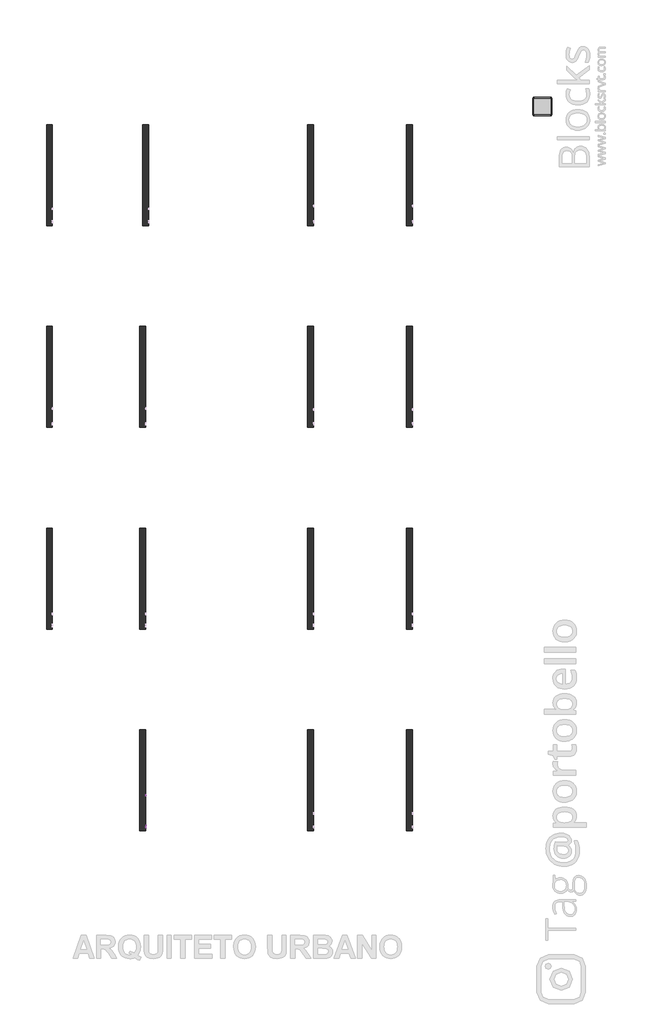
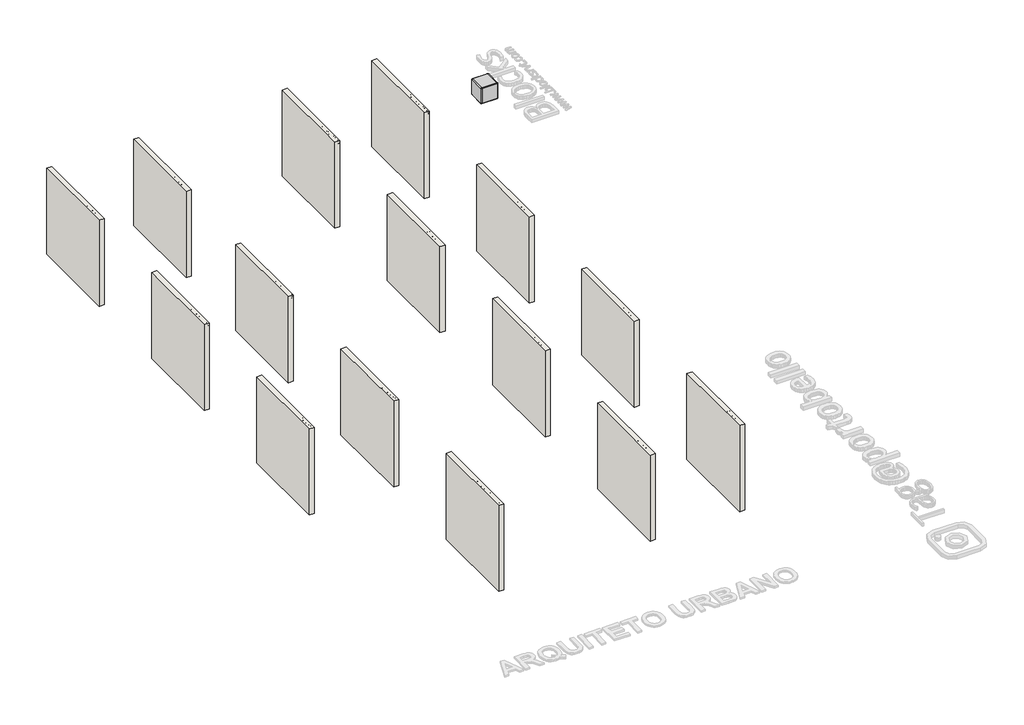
# One storey, part 1 of 8: 15 walls, 2 proxies, 1 furniture element.
"""IFC4 building model written with IfcOpenShell, lengths in millimetres."""

from ifc_helpers import new_model, si_unit, frame, origin, origin_with_axes, place, context, project, spatial, polyline, outline, extrude, transform, mapped, element, save
from components import branco_22256ad2

model = new_model("IFC4")

# Units and contexts
model_context = context("Model", 3, world=origin())
ifc_project = project(units=[si_unit("LENGTHUNIT", "METRE", prefix="MILLI")], contexts=[model_context])

# Site, building, storey
site = spatial("IfcSite", under=ifc_project)
building = spatial("IfcBuilding", under=site)
storey = spatial("IfcBuildingStorey", under=building, Name="PORTOBELLO - SHOWROOM", Elevation=0.0)

# Proxies
placement = place(None, origin())
element("IfcBuildingElementProxy", 1, Name="10mm Arial", ObjectType="10mm Arial", at=placement, inside=storey, context=model_context, shape_type="SweptSolid", body=[
    extrude(outline(polyline([(-9164.9115358, 2548.8308244), (-9164.9115358, 2649.2871345), (-9143.3046, 2649.2871345), (-9122.7522592, 2578.4821132), (-9118.6074554, 2563.693257), (-9114.119295, 2579.7083865), (-9093.9103107, 2649.2871345), (-9072.3033749, 2649.2871345), (-9072.3033749, 2548.8308244), (-9084.8604137, 2548.8308244), (-9084.8604137, 2636.7300958), (-9110.0971185, 2548.8308244), (-9127.1177922, 2548.8308244), (-9152.354497, 2636.7300958), (-9152.354497, 2548.8308244), (-9164.9115358, 2548.8308244)])), frame((-16732.9960483, 0.0, 0.0), z_axis=(1.0, 0.0, 0.0), x_axis=(0.0, 1.0, 0.0)), (0.0, 0.0, 1.0), 20.0),
    extrude(outline(polyline([(-9000.2475548, 2570.8056422), (-8987.9357707, 2569.2360124), (-8992.3718144, 2559.9592547), (-8999.4504771, 2553.0246791), (-9009.0123433, 2548.7020657), (-9020.8979974, 2547.2611945), (-9035.6316713, 2549.7474637), (-9046.9685682, 2557.2062711), (-9054.1974494, 2569.1532389), (-9056.6070764, 2585.1039891), (-9054.1729239, 2601.5912339), (-9046.8704663, 2613.9214121), (-9035.6868536, 2621.6101458), (-9021.609236, 2624.173057), (-9007.970011, 2621.6162771), (-8997.0715069, 2613.9459375), (-8989.9253991, 2601.6402848), (-8987.5433632, 2585.1775655), (-8987.6169396, 2581.7930512), (-9044.0500377, 2581.7930512), (-9041.8764682, 2572.3936662), (-9036.8272878, 2565.483616), (-9029.5401586, 2561.234579), (-9020.6527428, 2559.8182333), (-9008.3409587, 2562.4424582), (-9000.2475548, 2570.8056422)]), holes=[polyline([(-9044.0500377, 2594.3500899), (-9000.100402, 2594.3500899), (-9005.1281226, 2605.7299063), (-9012.4489743, 2610.1444902), (-9021.6582869, 2611.6160182), (-9037.1215934, 2606.9193914), (-9041.9868328, 2601.4287526), (-9044.0500377, 2594.3500899)])]), frame((-16732.9960483, 0.0, 0.0), z_axis=(1.0, 0.0, 0.0), x_axis=(0.0, 1.0, 0.0)), (0.0, 0.0, 1.0), 20.0),
    extrude(outline(polyline([(-8929.4670589, 2548.8308244), (-8929.4670589, 2560.6766246), (-8937.7750606, 2550.6150521), (-8949.2591102, 2547.2611945), (-8964.8082559, 2552.1172369), (-8975.7956648, 2565.667557), (-8979.695214, 2585.6435494), (-8976.1022332, 2605.6318044), (-8965.3355534, 2619.3905911), (-8949.3081612, 2624.173057), (-8937.7321411, 2620.7517544), (-8929.4670589, 2611.8612729), (-8929.4670589, 2649.2871345), (-8916.9100201, 2649.2871345), (-8916.9100201, 2548.8308244), (-8929.4670589, 2548.8308244)]), holes=[polyline([(-8967.1381752, 2585.6926003), (-8965.7218295, 2574.3342437), (-8961.4727925, 2566.2561682), (-8955.2985063, 2561.427717), (-8948.1064133, 2559.8182333), (-8940.917386, 2561.3541406), (-8934.8994497, 2565.9618626), (-8930.8251566, 2573.7272384), (-8929.4670589, 2584.7361071), (-8930.8496821, 2596.7719797), (-8934.9975516, 2605.1167696), (-8941.168772, 2609.9912061), (-8948.6214481, 2611.6160182), (-8955.8871175, 2610.0555854), (-8961.8406745, 2605.374287), (-8965.8138, 2597.3329998), (-8967.1381752, 2585.6926003)])]), frame((-16732.9960483, 0.0, 0.0), z_axis=(1.0, 0.0, 0.0), x_axis=(0.0, 1.0, 0.0)), (0.0, 0.0, 1.0), 20.0),
    extrude(outline(polyline([(-16712.9960483, -8885.5174232), (-16712.9960483, -8898.074462), (-16732.9960483, -8898.074462), (-16732.9960483, -8885.5174232), (-16712.9960483, -8885.5174232)])), frame((0.0, 0.0, 2636.7300958), z_axis=(0.0, 0.0, 1.0), x_axis=(1.0, 0.0, 0.0)), (0.0, 0.0, 1.0), 12.5570388),
    extrude(outline(polyline([(-16712.9960483, -8885.5174232), (-16712.9960483, -8898.074462), (-16732.9960483, -8898.074462), (-16732.9960483, -8885.5174232), (-16712.9960483, -8885.5174232)])), frame((0.0, 0.0, 2548.8308244), z_axis=(0.0, 0.0, 1.0), x_axis=(1.0, 0.0, 0.0)), (0.0, 0.0, 1.0), 73.7726028),
    extrude(outline(polyline([(-8839.9981577, 2559.3031985), (-8838.4285278, 2548.4629424), (-8847.8217814, 2547.2611945), (-8858.3432065, 2549.3458592), (-8863.5916563, 2554.8150382), (-8865.1122352, 2569.0643341), (-8865.1122352, 2610.0463884), (-8874.5300143, 2610.0463884), (-8874.5300143, 2622.6034272), (-8865.1122352, 2622.6034272), (-8865.1122352, 2640.531543), (-8852.5551964, 2647.9137084), (-8852.5551964, 2622.6034272), (-8839.9981577, 2622.6034272), (-8839.9981577, 2610.0463884), (-8852.5551964, 2610.0463884), (-8852.5551964, 2569.4322161), (-8851.8930088, 2562.957493), (-8849.7470305, 2560.6643619), (-8845.4673367, 2559.8182333), (-8839.9981577, 2559.3031985)])), frame((-16732.9960483, 0.0, 0.0), z_axis=(1.0, 0.0, 0.0), x_axis=(0.0, 1.0, 0.0)), (0.0, 0.0, 1.0), 20.0),
    extrude(outline(polyline([(-8775.7904868, 2570.8056422), (-8763.4787027, 2569.2360124), (-8767.9147464, 2559.9592547), (-8774.9934091, 2553.0246791), (-8784.5552753, 2548.7020657), (-8796.4409294, 2547.2611945), (-8811.1746033, 2549.7474637), (-8822.5115002, 2557.2062711), (-8829.7403814, 2569.1532389), (-8832.1500084, 2585.1039891), (-8829.7158559, 2601.5912339), (-8822.4133983, 2613.9214121), (-8811.2297856, 2621.6101458), (-8797.152168, 2624.173057), (-8783.512943, 2621.6162771), (-8772.6144389, 2613.9459375), (-8765.4683311, 2601.6402848), (-8763.0862952, 2585.1775655), (-8763.1598716, 2581.7930512), (-8819.5929697, 2581.7930512), (-8817.4194002, 2572.3936662), (-8812.3702198, 2565.483616), (-8805.0830906, 2561.234579), (-8796.1956748, 2559.8182333), (-8783.8838907, 2562.4424582), (-8775.7904868, 2570.8056422)]), holes=[polyline([(-8819.5929697, 2594.3500899), (-8775.643334, 2594.3500899), (-8780.6710546, 2605.7299063), (-8787.9919063, 2610.1444902), (-8797.2012189, 2611.6160182), (-8812.6645254, 2606.9193914), (-8817.5297648, 2601.4287526), (-8819.5929697, 2594.3500899)])]), frame((-16732.9960483, 0.0, 0.0), z_axis=(1.0, 0.0, 0.0), x_axis=(0.0, 1.0, 0.0)), (0.0, 0.0, 1.0), 20.0),
    extrude(outline(polyline([(-8750.5292564, 2548.8308244), (-8750.5292564, 2622.6034272), (-8739.5418475, 2622.6034272), (-8739.5418475, 2611.6895946), (-8731.7427492, 2621.7450358), (-8723.8946, 2624.173057), (-8711.2885103, 2620.2980333), (-8715.482365, 2609.0408443), (-8724.3115329, 2611.6160182), (-8731.4116554, 2609.1389461), (-8735.936604, 2602.2718156), (-8737.9722177, 2587.6055867), (-8737.9722177, 2548.8308244), (-8750.5292564, 2548.8308244)])), frame((-16732.9960483, 0.0, 0.0), z_axis=(1.0, 0.0, 0.0), x_axis=(0.0, 1.0, 0.0)), (0.0, 0.0, 1.0), 20.0),
    extrude(outline(polyline([(-8703.4403611, 2548.8308244), (-8703.4403611, 2622.6034272), (-8692.4529521, 2622.6034272), (-8692.4529521, 2611.6895946), (-8684.6538538, 2621.7450358), (-8676.8057046, 2624.173057), (-8664.1996149, 2620.2980333), (-8668.3934697, 2609.0408443), (-8677.2226375, 2611.6160182), (-8684.32276, 2609.1389461), (-8688.8477086, 2602.2718156), (-8690.8833223, 2587.6055867), (-8690.8833223, 2548.8308244), (-8703.4403611, 2548.8308244)])), frame((-16732.9960483, 0.0, 0.0), z_axis=(1.0, 0.0, 0.0), x_axis=(0.0, 1.0, 0.0)), (0.0, 0.0, 1.0), 20.0),
    extrude(outline(polyline([(-8609.2625703, 2558.2486035), (-8621.4394643, 2549.7382666), (-8634.8916826, 2547.2611945), (-8645.3855165, 2548.7511166), (-8653.1263669, 2553.2208829), (-8657.8996357, 2560.0083057), (-8659.4907254, 2568.4511975), (-8657.0872297, 2578.3840113), (-8650.7719221, 2585.5944984), (-8641.9795424, 2589.7147768), (-8631.1147608, 2591.6032377), (-8609.3361467, 2595.9197198), (-8609.2625703, 2598.7156229), (-8612.720661, 2607.9862492), (-8626.602075, 2611.6160182), (-8639.3062666, 2609.2002598), (-8645.3640568, 2600.6286093), (-8657.9210955, 2602.1982392), (-8652.4887047, 2614.4609723), (-8641.5503467, 2621.646934), (-8624.9833942, 2624.173057), (-8609.7653424, 2621.9412396), (-8601.1691664, 2616.3371705), (-8597.3186682, 2607.8145709), (-8596.7055315, 2596.827162), (-8596.7055315, 2581.20444), (-8596.0678694, 2559.3890376), (-8593.5662718, 2548.8308244), (-8606.1233106, 2548.8308244), (-8609.2625703, 2558.2486035)]), holes=[polyline([(-8609.2625703, 2583.362681), (-8629.5206055, 2579.5121828), (-8640.3240734, 2577.4765691), (-8645.216904, 2574.1656311), (-8646.9336866, 2569.3341142), (-8643.193553, 2562.5405601), (-8632.2184068, 2559.8182333), (-8619.5142152, 2562.8226029), (-8611.3227095, 2570.0944037), (-8609.3361467, 2579.8064884), (-8609.2625703, 2583.362681)])]), frame((-16732.9960483, 0.0, 0.0), z_axis=(1.0, 0.0, 0.0), x_axis=(0.0, 1.0, 0.0)), (0.0, 0.0, 1.0), 20.0),
    extrude(outline(polyline([(-8579.4396032, 2548.8308244), (-8579.4396032, 2622.6034272), (-8566.8825645, 2622.6034272), (-8566.8825645, 2612.3027313), (-8557.2808444, 2621.2054756), (-8544.1719826, 2624.173057), (-8532.3139196, 2621.781824), (-8524.2205157, 2615.5033046), (-8520.4558567, 2606.2694666), (-8519.7936691, 2594.1293607), (-8519.7936691, 2548.8308244), (-8532.3507078, 2548.8308244), (-8532.3507078, 2592.4371035), (-8533.7977104, 2603.5471398), (-8538.9112701, 2609.420989), (-8547.5319715, 2611.6160182), (-8561.1558681, 2606.6863995), (-8565.4508904, 2599.5433574), (-8566.8825645, 2587.9734687), (-8566.8825645, 2548.8308244), (-8579.4396032, 2548.8308244)])), frame((-16732.9960483, 0.0, 0.0), z_axis=(1.0, 0.0, 0.0), x_axis=(0.0, 1.0, 0.0)), (0.0, 0.0, 1.0), 20.0),
    extrude(outline(polyline([(-8450.8771086, 2570.8056422), (-8438.5653245, 2569.2360124), (-8443.0013683, 2559.9592547), (-8450.080031, 2553.0246791), (-8459.6418972, 2548.7020657), (-8471.5275513, 2547.2611945), (-8486.2612252, 2549.7474637), (-8497.598122, 2557.2062711), (-8504.8270032, 2569.1532389), (-8507.2366303, 2585.1039891), (-8504.8024778, 2601.5912339), (-8497.5000202, 2613.9214121), (-8486.3164075, 2621.6101458), (-8472.2387898, 2624.173057), (-8458.5995649, 2621.6162771), (-8447.7010607, 2613.9459375), (-8440.554953, 2601.6402848), (-8438.1729171, 2585.1775655), (-8438.2464935, 2581.7930512), (-8494.6795915, 2581.7930512), (-8492.5060221, 2572.3936662), (-8487.4568417, 2565.483616), (-8480.1697125, 2561.234579), (-8471.2822966, 2559.8182333), (-8458.9705125, 2562.4424582), (-8450.8771086, 2570.8056422)]), holes=[polyline([(-8494.6795915, 2594.3500899), (-8450.7299558, 2594.3500899), (-8455.7576764, 2605.7299063), (-8463.0785281, 2610.1444902), (-8472.2878408, 2611.6160182), (-8487.7511473, 2606.9193914), (-8492.6163867, 2601.4287526), (-8494.6795915, 2594.3500899)])]), frame((-16732.9960483, 0.0, 0.0), z_axis=(1.0, 0.0, 0.0), x_axis=(0.0, 1.0, 0.0)), (0.0, 0.0, 1.0), 20.0),
    extrude(outline(polyline([(-8428.755138, 2585.7171258), (-8426.0389426, 2603.5042202), (-8417.8903564, 2616.0060767), (-8407.8226525, 2622.1313119), (-8395.7683858, 2624.173057), (-8382.5767506, 2621.6867878), (-8372.0399971, 2614.2279804), (-8365.1330126, 2602.3852458), (-8362.8306845, 2586.7471954), (-8366.9019119, 2564.4044955), (-8378.7599749, 2551.7616176), (-8395.7683858, 2547.2611945), (-8409.1194365, 2549.7382666), (-8419.6439272, 2557.1694829), (-8426.4773353, 2569.2605379), (-8428.755138, 2585.7171258)]), holes=[polyline([(-8416.1980992, 2585.7416512), (-8414.7449653, 2574.3771633), (-8410.3855637, 2566.2806937), (-8403.8250015, 2561.4338484), (-8395.7683858, 2559.8182333), (-8387.7485583, 2561.4430455), (-8381.2002588, 2566.3174819), (-8376.8408571, 2574.5212504), (-8375.3877232, 2586.1340587), (-8376.8500542, 2597.1674529), (-8381.237047, 2605.1535578), (-8387.7945435, 2610.0004031), (-8395.7683858, 2611.6160182), (-8403.8250015, 2610.0065345), (-8410.3855637, 2605.1780833), (-8414.7449653, 2597.1000078), (-8416.1980992, 2585.7416512)])]), frame((-16732.9960483, 0.0, 0.0), z_axis=(1.0, 0.0, 0.0), x_axis=(0.0, 1.0, 0.0)), (0.0, 0.0, 1.0), 20.0),
])
element("IfcBuildingElementProxy", 2, Name="10mm Arial Narrow", ObjectType="10mm Arial Narrow", at=placement, inside=storey, context=model_context, shape_type="SweptSolid", body=[
    extrude(outline(polyline([(-8307.7764767, 2548.8308244), (-8307.7764767, 2649.5494281), (-8276.479592, 2649.5494281), (-8260.1838905, 2647.6711074), (-8248.7109044, 2638.1906642), (-8244.4212259, 2621.1715554), (-8246.2075343, 2609.0957299), (-8251.5664595, 2599.4693361), (-8261.3102484, 2593.1680777), (-8276.2511476, 2591.0676582), (-8298.029515, 2591.0676582), (-8298.029515, 2548.8308244), (-8307.7764767, 2548.8308244)]), holes=[polyline([(-8298.029515, 2602.4391135), (-8275.0581601, 2602.4391135), (-8259.1939647, 2606.9699277), (-8254.1681876, 2620.6385184), (-8256.6430021, 2630.8042949), (-8262.6206309, 2636.6042447), (-8275.2866045, 2638.1779729), (-8298.029515, 2638.1779729), (-8298.029515, 2602.4391135)])]), frame((-16732.9960483, 0.0, 0.0), z_axis=(1.0, 0.0, 0.0), x_axis=(0.0, 1.0, 0.0)), (0.0, 0.0, 1.0), 20.0),
    extrude(outline(polyline([(-8236.2987579, 2585.3819306), (-8234.344289, 2601.9727061), (-8228.4808824, 2613.9247909), (-8219.6223157, 2621.1493455), (-8208.6823665, 2623.5575304), (-8197.869331, 2621.1493455), (-8188.9853815, 2613.9247909), (-8183.0458268, 2602.1630765), (-8181.0659752, 2586.143412), (-8183.0109255, 2568.9815254), (-8188.8457766, 2556.8390702), (-8197.6948248, 2549.6145156), (-8208.6823665, 2547.2063308), (-8219.5429947, 2549.6208613), (-8228.4174256, 2556.8644529), (-8234.3284248, 2568.8228834), (-8236.2987579, 2585.3819306)]), holes=[polyline([(-8226.5517962, 2585.4073133), (-8225.2477594, 2572.8555619), (-8221.3356488, 2563.9843038), (-8215.494452, 2558.7110453), (-8208.4031567, 2556.9532924), (-8201.6830835, 2558.7269095), (-8195.9910102, 2564.0477606), (-8192.1074552, 2572.9348829), (-8190.8129368, 2585.4073133), (-8192.1169737, 2597.9209906), (-8196.0290843, 2606.7795573), (-8201.870281, 2612.0528159), (-8208.9615764, 2613.8105687), (-8215.7292421, 2612.0432974), (-8221.4117969, 2606.7414833), (-8225.2667964, 2597.873398), (-8226.5517962, 2585.4073133)])]), frame((-16732.9960483, 0.0, 0.0), z_axis=(1.0, 0.0, 0.0), x_axis=(0.0, 1.0, 0.0)), (0.0, 0.0, 1.0), 20.0),
    extrude(outline(polyline([(-8109.5882564, 2556.9532924), (-8107.9637628, 2547.2063308), (-8115.3247495, 2547.2063308), (-8123.5995138, 2549.3257873), (-8127.9145749, 2555.1257371), (-8129.0821797, 2569.7715623), (-8129.0821797, 2612.1860751), (-8137.2046478, 2612.1860751), (-8137.2046478, 2615.4350624), (-8138.8291414, 2610.5615815), (-8146.3931897, 2612.1860751), (-8152.4723494, 2609.8635569), (-8156.3432131, 2603.3782738), (-8158.3230647, 2587.9709673), (-8158.3230647, 2548.8308244), (-8168.0700263, 2548.8308244), (-8168.0700263, 2621.9330368), (-8158.3230647, 2621.9330368), (-8158.3230647, 2612.2368406), (-8152.0789174, 2621.3238517), (-8145.6824738, 2623.5575304), (-8137.2046478, 2621.9330368), (-8129.0821797, 2621.9330368), (-8129.0821797, 2638.1779729), (-8119.3352181, 2646.3004409), (-8119.3352181, 2621.9330368), (-8109.5882564, 2621.9330368), (-8109.5882564, 2612.1860751), (-8119.3352181, 2612.1860751), (-8119.3352181, 2567.5378836), (-8118.4722058, 2559.5423291), (-8113.8525521, 2556.9532924), (-8109.5882564, 2556.9532924)])), frame((-16732.9960483, 0.0, 0.0), z_axis=(1.0, 0.0, 0.0), x_axis=(0.0, 1.0, 0.0)), (0.0, 0.0, 1.0), 20.0),
    extrude(outline(polyline([(-8103.090282, 2585.3819306), (-8101.1358131, 2601.9727061), (-8095.2724065, 2613.9247909), (-8086.4138398, 2621.1493455), (-8075.4738906, 2623.5575304), (-8064.660855, 2621.1493455), (-8055.7769056, 2613.9247909), (-8049.8373508, 2602.1630765), (-8047.8574993, 2586.143412), (-8049.8024496, 2568.9815254), (-8055.6373007, 2556.8390702), (-8064.4863489, 2549.6145156), (-8075.4738906, 2547.2063308), (-8086.3345188, 2549.6208613), (-8095.2089497, 2556.8644529), (-8101.1199489, 2568.8228834), (-8103.090282, 2585.3819306)]), holes=[polyline([(-8093.3433203, 2585.4073133), (-8092.0392834, 2572.8555619), (-8088.1271729, 2563.9843038), (-8082.2859761, 2558.7110453), (-8075.1946808, 2556.9532924), (-8068.4746076, 2558.7269095), (-8062.7825343, 2564.0477606), (-8058.8989793, 2572.9348829), (-8057.6044609, 2585.4073133), (-8058.9084978, 2597.9209906), (-8062.8206084, 2606.7795573), (-8068.6618051, 2612.0528159), (-8075.7531005, 2613.8105687), (-8082.5207662, 2612.0432974), (-8088.203321, 2606.7414833), (-8092.0583205, 2597.873398), (-8093.3433203, 2585.4073133)])]), frame((-16732.9960483, 0.0, 0.0), z_axis=(1.0, 0.0, 0.0), x_axis=(0.0, 1.0, 0.0)), (0.0, 0.0, 1.0), 20.0),
    extrude(outline(polyline([(-8025.1145887, 2548.8308244), (-8034.8615504, 2548.8308244), (-8034.8615504, 2649.5494281), (-8025.1145887, 2649.5494281), (-8025.1145887, 2614.140544), (-8017.715528, 2621.2223208), (-8008.5142947, 2623.5575304), (-7995.632568, 2619.3566915), (-7986.3551865, 2606.6272611), (-7982.8777549, 2585.9403503), (-7984.8100139, 2569.4860068), (-7990.6067909, 2557.2832677), (-7998.9799132, 2549.725565), (-8008.6412082, 2547.2063308), (-8017.9820465, 2549.8207502), (-8025.1145887, 2557.5878602), (-8025.1145887, 2548.8308244)]), holes=[polyline([(-8025.1145887, 2585.9403503), (-8023.0332063, 2568.692797), (-8017.144417, 2559.9611439), (-8008.6919737, 2556.9532924), (-8002.7492461, 2558.7427737), (-7997.5108887, 2564.1112174), (-7992.6247166, 2585.5342269), (-7997.3332098, 2606.9699277), (-8002.5779128, 2612.1004085), (-8008.8950354, 2613.8105687), (-8014.8726642, 2612.0210875), (-8020.1649598, 2606.6526438), (-8025.1145887, 2585.9403503)])]), frame((-16732.9960483, 0.0, 0.0), z_axis=(1.0, 0.0, 0.0), x_axis=(0.0, 1.0, 0.0)), (0.0, 0.0, 1.0), 20.0),
    extrude(outline(polyline([(-7930.8939594, 2571.5737349), (-7921.1469978, 2569.9492413), (-7924.8465281, 2560.0626747), (-7930.665515, 2552.9428238), (-7938.3691683, 2548.640454), (-7947.7226979, 2547.2063308), (-7959.3162519, 2549.6208613), (-7968.4603741, 2556.8644529), (-7974.3999289, 2568.6705872), (-7976.3797805, 2584.7727455), (-7974.3904104, 2601.4396692), (-7968.4223001, 2613.6201984), (-7959.4082642, 2621.0731974), (-7948.2811176, 2623.5575304), (-7937.5981684, 2621.1588641), (-7928.8506511, 2613.962865), (-7923.0158, 2602.2233604), (-7921.0708496, 2586.1941774), (-7921.1469978, 2582.9451902), (-7966.6328188, 2582.9451902), (-7960.6298073, 2563.5020323), (-7954.699771, 2558.5904774), (-7947.5957843, 2556.9532924), (-7937.4173166, 2560.608403), (-7930.8939594, 2571.5737349)]), holes=[polyline([(-7965.9728683, 2592.6921518), (-7930.8939594, 2592.6921518), (-7935.1582551, 2606.9572363), (-7940.9835877, 2612.0972356), (-7948.2049694, 2613.8105687), (-7960.4140542, 2608.0994584), (-7965.9728683, 2592.6921518)])]), frame((-16732.9960483, 0.0, 0.0), z_axis=(1.0, 0.0, 0.0), x_axis=(0.0, 1.0, 0.0)), (0.0, 0.0, 1.0), 20.0),
    extrude(outline(polyline([(-16712.9960483, -7898.4040872), (-16712.9960483, -7908.1510489), (-16732.9960483, -7908.1510489), (-16732.9960483, -7898.4040872), (-16712.9960483, -7898.4040872)])), frame((0.0, 0.0, 2548.8308244), z_axis=(0.0, 0.0, 1.0), x_axis=(1.0, 0.0, 0.0)), (0.0, 0.0, 1.0), 100.7186038),
    extrude(outline(polyline([(-16712.9960483, -7872.4121895), (-16712.9960483, -7882.1591512), (-16732.9960483, -7882.1591512), (-16732.9960483, -7872.4121895), (-16712.9960483, -7872.4121895)])), frame((0.0, 0.0, 2548.8308244), z_axis=(0.0, 0.0, 1.0), x_axis=(1.0, 0.0, 0.0)), (0.0, 0.0, 1.0), 100.7186038),
    extrude(outline(polyline([(-7861.0407342, 2585.3819306), (-7859.0862654, 2601.9727061), (-7853.2228587, 2613.9247909), (-7844.364292, 2621.1493455), (-7833.4243429, 2623.5575304), (-7822.6113073, 2621.1493455), (-7813.7273579, 2613.9247909), (-7807.7878031, 2602.1630765), (-7805.8079515, 2586.143412), (-7807.7529019, 2568.9815254), (-7813.587753, 2556.8390702), (-7822.4368012, 2549.6145156), (-7833.4243429, 2547.2063308), (-7844.2849711, 2549.6208613), (-7853.159402, 2556.8644529), (-7859.0704012, 2568.8228834), (-7861.0407342, 2585.3819306)]), holes=[polyline([(-7851.2937726, 2585.4073133), (-7849.9897357, 2572.8555619), (-7846.0776251, 2563.9843038), (-7840.2364284, 2558.7110453), (-7833.145133, 2556.9532924), (-7826.4250599, 2558.7269095), (-7820.7329866, 2564.0477606), (-7816.8494315, 2572.9348829), (-7815.5549132, 2585.4073133), (-7816.85895, 2597.9209906), (-7820.7710606, 2606.7795573), (-7826.6122574, 2612.0528159), (-7833.7035527, 2613.8105687), (-7840.4712185, 2612.0432974), (-7846.1537733, 2606.7414833), (-7850.0087728, 2597.873398), (-7851.2937726, 2585.4073133)])]), frame((-16732.9960483, 0.0, 0.0), z_axis=(1.0, 0.0, 0.0), x_axis=(0.0, 1.0, 0.0)), (0.0, 0.0, 1.0), 20.0),
])

# Furniture
branco_shape = branco_22256ad2(model_context)
element("IfcFurniture", 3, ObjectType="Blks_Mob_Blocks Revit_Cubo : Branco", at=placement, inside=storey, context=model_context, shape_type="MappedRepresentation", body=[
    mapped(branco_shape, transform((-6101.3966844, 10160.1694969, 0.0), x_axis=(1.0, 0.0, 0.0), y_axis=(0.0, 1.0, 0.0), z_axis=(0.0, 0.0, 1.0))),
])

# Walls
element("IfcWall", 4, ObjectType="PORTOBELLO - ARQUITETO URBANO - ANIS - BR - 9,5X9,5 - TEL", at=placement, inside=storey, context=model_context, shape_type="SweptSolid", body=[
    extrude(outline(polyline([(-16882.9960483, -3826.1599126), (-16882.9960483, -1126.1599126), (-16732.9960483, -1126.1599126), (-16732.9960483, -3826.1599126), (-16882.9960483, -3826.1599126)])), origin_with_axes(), (0.0, 0.0, 1.0), 2700.0),
])
element("IfcWall", 5, ObjectType="PORTOBELLO - ARQUITETO URBANO - ANIS - MATE - 9,5X9,5 - TEL", at=placement, inside=storey, context=model_context, shape_type="SweptSolid", body=[
    extrude(outline(polyline([(-19382.9960483, -3826.1599126), (-19382.9960483, -1126.1599126), (-19232.9960483, -1126.1599126), (-19232.9960483, -3826.1599126), (-19382.9960483, -3826.1599126)])), origin_with_axes(), (0.0, 0.0, 1.0), 2700.0),
])
element("IfcWall", 6, ObjectType="PORTOBELLO - ARQUITETO URBANO - ARGILA - BR - 9,5X9,5 - TEL", at=placement, inside=storey, context=model_context, shape_type="SweptSolid", body=[
    extrude(outline(polyline([(-9735.374587, 1573.8400874), (-9735.374587, 4273.8400874), (-9585.374587, 4273.8400874), (-9585.374587, 1573.8400874), (-9735.374587, 1573.8400874)])), origin_with_axes(), (0.0, 0.0, 1.0), 2700.0),
])
element("IfcWall", 7, ObjectType="PORTOBELLO - ARQUITETO URBANO - ARGILA - MATE - 9,5X9,5 - TEL", at=placement, inside=storey, context=model_context, shape_type="SweptSolid", body=[
    extrude(outline(polyline([(-12386.674587, 1573.8400874), (-12386.674587, 4273.8400874), (-12236.674587, 4273.8400874), (-12236.674587, 1573.8400874), (-12386.674587, 1573.8400874)])), origin_with_axes(), (0.0, 0.0, 1.0), 2700.0),
])
element("IfcWall", 8, ObjectType="PORTOBELLO - ARQUITETO URBANO - KAKI - BR_9,5X9,5 - TEL", at=placement, inside=storey, context=model_context, shape_type="SweptSolid", body=[
    extrude(outline(polyline([(-9735.374587, -3826.1599126), (-9735.374587, -1126.1599126), (-9585.374587, -1126.1599126), (-9585.374587, -3826.1599126), (-9735.374587, -3826.1599126)])), origin_with_axes(), (0.0, 0.0, 1.0), 2700.0),
])
element("IfcWall", 9, ObjectType="PORTOBELLO - ARQUITETO URBANO - KAKI - MATE - 9,5X9,5 - TEL", at=placement, inside=storey, context=model_context, shape_type="SweptSolid", body=[
    extrude(outline(polyline([(-12386.674587, -3826.1599126), (-12386.674587, -1126.1599126), (-12236.674587, -1126.1599126), (-12236.674587, -3826.1599126), (-12386.674587, -3826.1599126)])), origin_with_axes(), (0.0, 0.0, 1.0), 2700.0),
])
element("IfcWall", 10, ObjectType="PORTOBELLO - ARQUITETO URBANO - MEDITERRANEO - BR - 9,5X9,5 - TEL", at=placement, inside=storey, context=model_context, shape_type="SweptSolid", body=[
    extrude(outline(polyline([(-16882.9960483, -9226.1599126), (-16882.9960483, -6526.1599126), (-16732.9960483, -6526.1599126), (-16732.9960483, -9226.1599126), (-16882.9960483, -9226.1599126)])), origin_with_axes(), (0.0, 0.0, 1.0), 2700.0),
])
element("IfcWall", 11, ObjectType="PORTOBELLO - ARQUITETO URBANO - NEVE - BR_9,5X9,5 - TEL", at=placement, inside=storey, context=model_context, shape_type="SweptSolid", body=[
    extrude(outline(polyline([(-9735.374587, -9226.1599126), (-9735.374587, -6526.1599126), (-9585.374587, -6526.1599126), (-9585.374587, -9226.1599126), (-9735.374587, -9226.1599126)])), origin_with_axes(), (0.0, 0.0, 1.0), 2700.0),
])
element("IfcWall", 12, ObjectType="PORTOBELLO - ARQUITETO URBANO - NEVE - MATE - 9,5X9,5 - TEL", at=placement, inside=storey, context=model_context, shape_type="SweptSolid", body=[
    extrude(outline(polyline([(-12386.674587, -9226.1599126), (-12386.674587, -6526.1599126), (-12236.674587, -6526.1599126), (-12236.674587, -9226.1599126), (-12386.674587, -9226.1599126)])), origin_with_axes(), (0.0, 0.0, 1.0), 2700.0),
])
element("IfcWall", 13, ObjectType="PORTOBELLO - ARQUITETO URBANO - PRETO - BR - 9,5X9,5 - TEL", at=placement, inside=storey, context=model_context, shape_type="SweptSolid", body=[
    extrude(outline(polyline([(-16801.6960483, 6973.8400874), (-16801.6960483, 9673.8400874), (-16651.6960483, 9673.8400874), (-16651.6960483, 6973.8400874), (-16801.6960483, 6973.8400874)])), origin_with_axes(), (0.0, 0.0, 1.0), 2700.0),
])
element("IfcWall", 14, ObjectType="PORTOBELLO - ARQUITETO URBANO - PRETO - MATE - 9,5X9,5 - TEL", at=placement, inside=storey, context=model_context, shape_type="SweptSolid", body=[
    extrude(outline(polyline([(-19382.9960483, 6973.8400874), (-19382.9960483, 9673.8400874), (-19232.9960483, 9673.8400874), (-19232.9960483, 6973.8400874), (-19382.9960483, 6973.8400874)])), origin_with_axes(), (0.0, 0.0, 1.0), 2700.0),
])
element("IfcWall", 15, ObjectType="PORTOBELLO - ARQUITETO URBANO - SAFIRA - BR - 9,5X9,5 - TEL", at=placement, inside=storey, context=model_context, shape_type="SweptSolid", body=[
    extrude(outline(polyline([(-16882.9960483, 1573.8400874), (-16882.9960483, 4273.8400874), (-16732.9960483, 4273.8400874), (-16732.9960483, 1573.8400874), (-16882.9960483, 1573.8400874)])), origin_with_axes(), (0.0, 0.0, 1.0), 2700.0),
])
element("IfcWall", 16, ObjectType="PORTOBELLO - ARQUITETO URBANO - SAFIRA - MATE - 9,5X9,5 - TEL", at=placement, inside=storey, context=model_context, shape_type="SweptSolid", body=[
    extrude(outline(polyline([(-19382.9960483, 1573.8400874), (-19382.9960483, 4273.8400874), (-19232.9960483, 4273.8400874), (-19232.9960483, 1573.8400874), (-19382.9960483, 1573.8400874)])), origin_with_axes(), (0.0, 0.0, 1.0), 2700.0),
])
element("IfcWall", 17, ObjectType="PORTOBELLO - ARQUITETO URBANO - SUNNY - BR - 9,5X9,5 - TEL", at=placement, inside=storey, context=model_context, shape_type="SweptSolid", body=[
    extrude(outline(polyline([(-9735.374587, 6973.8400874), (-9735.374587, 9673.8400874), (-9585.374587, 9673.8400874), (-9585.374587, 6973.8400874), (-9735.374587, 6973.8400874)])), origin_with_axes(), (0.0, 0.0, 1.0), 2700.0),
])
element("IfcWall", 18, ObjectType="PORTOBELLO - ARQUITETO URBANO - SUNNY - MATE - 9,5X9,5 - TEL", at=placement, inside=storey, context=model_context, shape_type="SweptSolid", body=[
    extrude(outline(polyline([(-12386.674587, 6973.8400874), (-12386.674587, 9673.8400874), (-12236.674587, 9673.8400874), (-12236.674587, 6973.8400874), (-12386.674587, 6973.8400874)])), origin_with_axes(), (0.0, 0.0, 1.0), 2700.0),
])

save(model, "model.ifc")
